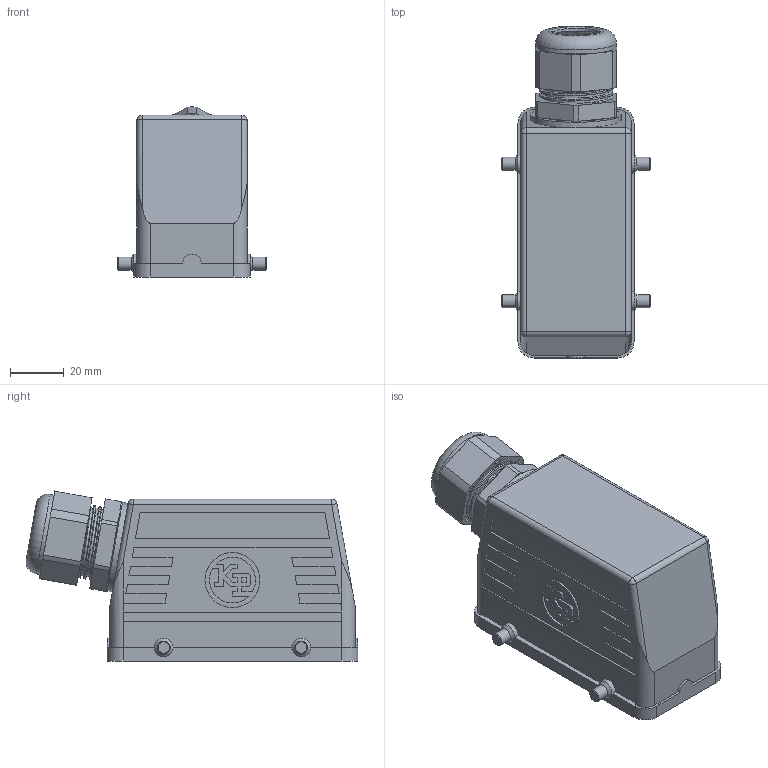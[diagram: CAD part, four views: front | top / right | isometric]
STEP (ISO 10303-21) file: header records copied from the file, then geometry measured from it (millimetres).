
FILE_DESCRIPTION((''),'2;1');
FILE_NAME('E:\WorkFolder\Serie\PB\STEP\PB16L.stp','2010-07-26T11:33:51',('andre'),(''),'Autodesk Inventor 10','Autodesk Inventor 10','');
FILE_SCHEMA(('AUTOMOTIVE_DESIGN { 1 0 10303 214 1 1 1 1 }'));
Length unit declared in the file: millimetre
Products named in the file (1): PB16L
Bounding box: 55 x 123 x 63.03 mm (x, y, z)
Volume: 62341.3 mm3; surface area: 45433.8 mm2
Topology: 1 solids, 1 shells, 449 faces, 1230 edges, 798 vertices
Faces by surface type: plane 303, cylinder 94, bspline 28, cone 17, sphere 4, torus 3
Full cylindrical faces by diameter (mm): 2.5 x4, 3.5 x4, 4.8 x4, 17.2 x1, 17.4 x1, 18.8 x1, 20.4 x2, 26.8 x3, 29.6 x1, 30 x1, 33.5 x1
Entity records: 17594 total; most frequent: CARTESIAN_POINT 6533, ORIENTED_EDGE 2328, DIRECTION 2166, EDGE_CURVE 1164, VECTOR 838, LINE 838, VERTEX_POINT 781, AXIS2_PLACEMENT_3D 664
